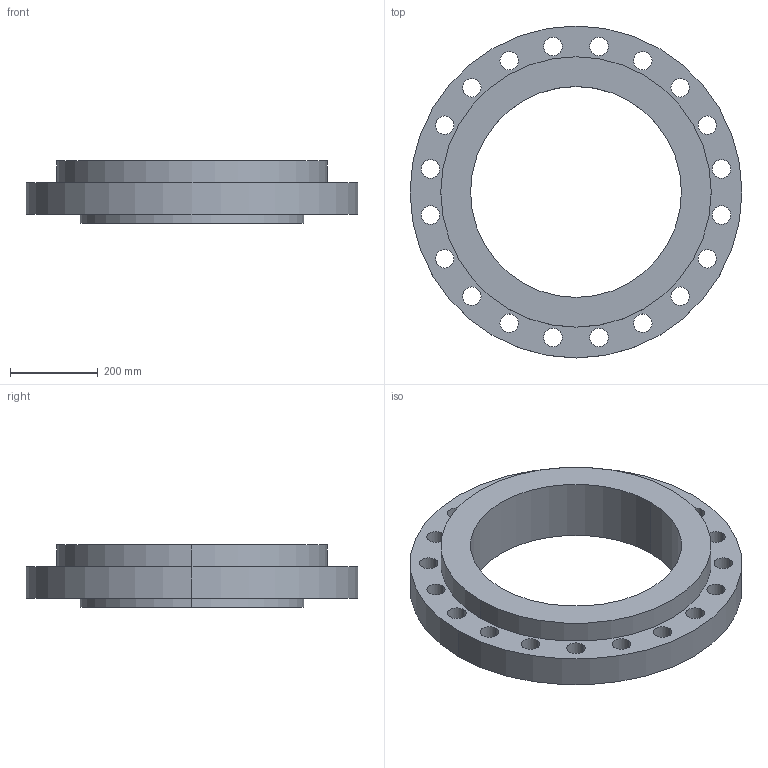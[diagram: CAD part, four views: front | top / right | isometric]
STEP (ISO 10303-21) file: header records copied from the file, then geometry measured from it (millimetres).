
FILE_DESCRIPTION (( 'STEP AP214' ), '1' );
FILE_NAME ('PN40 DN500 Type 04 in 34 - (Type A Face).STEP', '2018-12-29T01:34:00', ( '' ), ( '' ), 'SwSTEP 2.0', 'SolidWorks 2019', '' );
FILE_SCHEMA (( 'AUTOMOTIVE_DESIGN' ));
Length unit declared in the file: millimetre
Products named in the file (1): PN40 DN500 Type 04 in 34 - (Type A Face)
Bounding box: 755 x 755 x 142 mm (x, y, z)
Volume: 20268230.5 mm3; surface area: 1470929.5 mm2
Topology: 2 solids, 2 shells, 61 faces, 162 edges, 106 vertices
Faces by surface type: cylinder 50, cone 6, plane 5
Entity records: 2085 total; most frequent: DIRECTION 392, CARTESIAN_POINT 330, ORIENTED_EDGE 324, AXIS2_PLACEMENT_3D 168, EDGE_CURVE 162, CIRCLE 106, VERTEX_POINT 106, EDGE_LOOP 106
